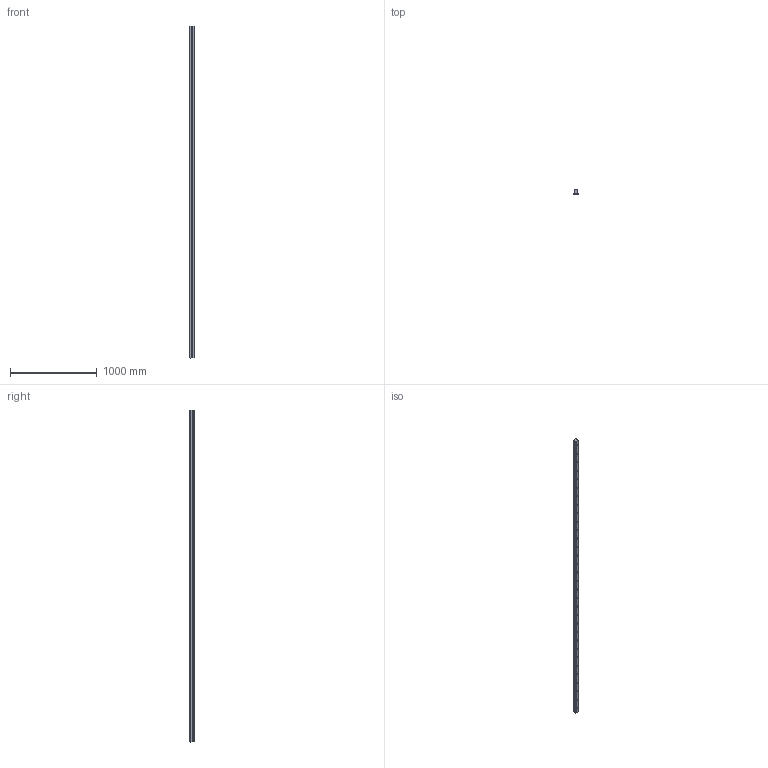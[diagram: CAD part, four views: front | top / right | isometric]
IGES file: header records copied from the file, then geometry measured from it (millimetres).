
Start section: 3D InterOp IGES (v. 2019 1.0.2), Spatial Corp. Copyright (c) 1999-2017.
Global section: file name: R1605.0_size55.igs; native system: Spatial Corp.; preprocessor: 3D InterOp GENERIC/IGES 3.0; author: Noname; organization: Noname; date: 20220629.163423; units: millimetre
Bounding box: 53 x 47.85 x 3836 mm (x, y, z)
Surface area: 912704 mm2 (no closed solid volume)
Topology: 0 solids, 0 shells, 366 faces, 1504 edges, 1504 vertices
Faces by surface type: revolution 204, extrusion 162
